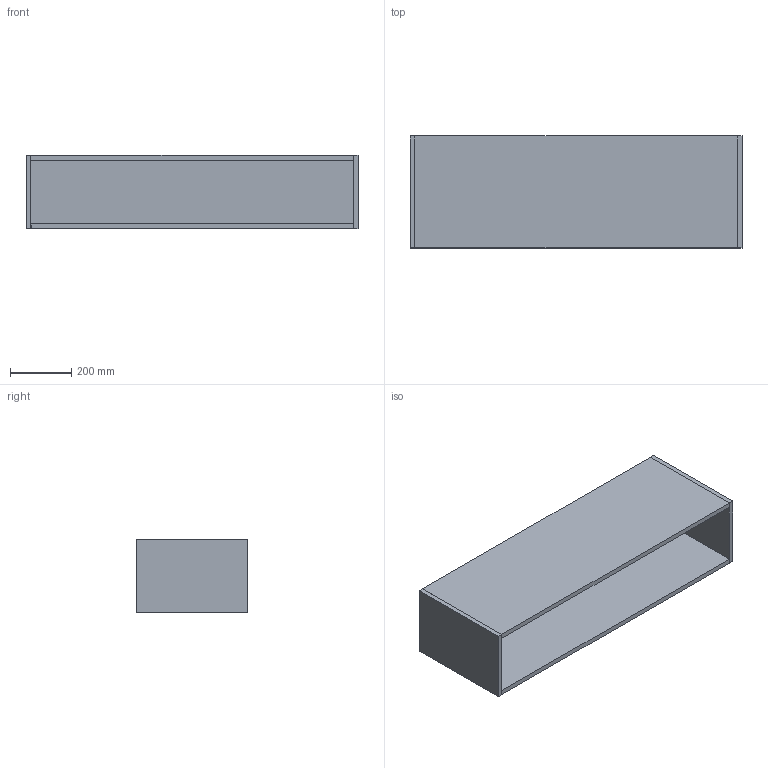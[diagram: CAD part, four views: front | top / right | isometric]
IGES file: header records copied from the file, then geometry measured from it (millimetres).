
Start section: Data from Parasolid IGES Translator 19.0.9, Copyright(c) 2006 Siemens PL M Software. All Rights Reserved.
Global section: file name: noorth-SI-H 24 D 38,8 W 108_8284.igs; native system: By Siemens PLM Incorporated; preprocessor: XPlus GENERIC/IGES 19.0.9; author: Noname; organization: Noname; date: 20200530.105539; units: metre
Bounding box: 1080.01 x 364.06 x 240 mm (x, y, z)
Volume: 15626964.6 mm3; surface area: 2447650.9 mm2
Topology: 5 solids, 5 shells, 30 faces, 60 edges, 40 vertices
Faces by surface type: plane 30
